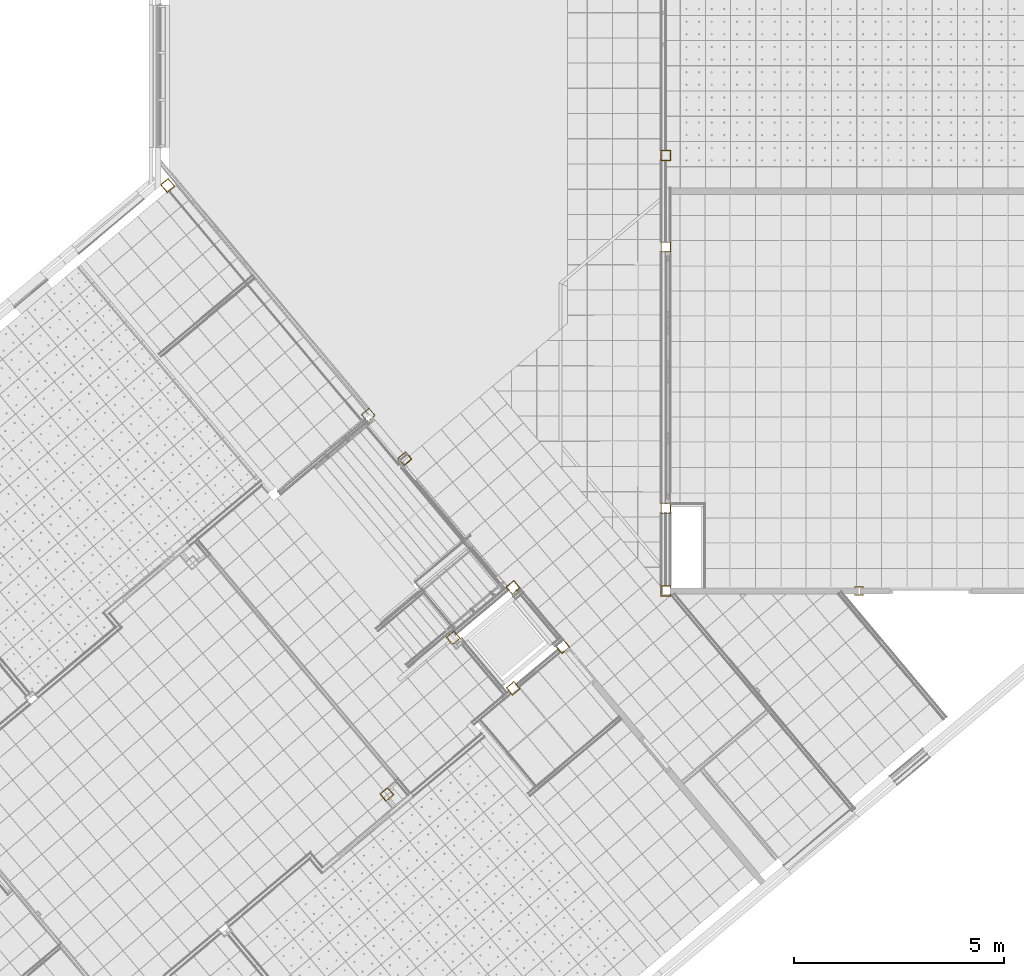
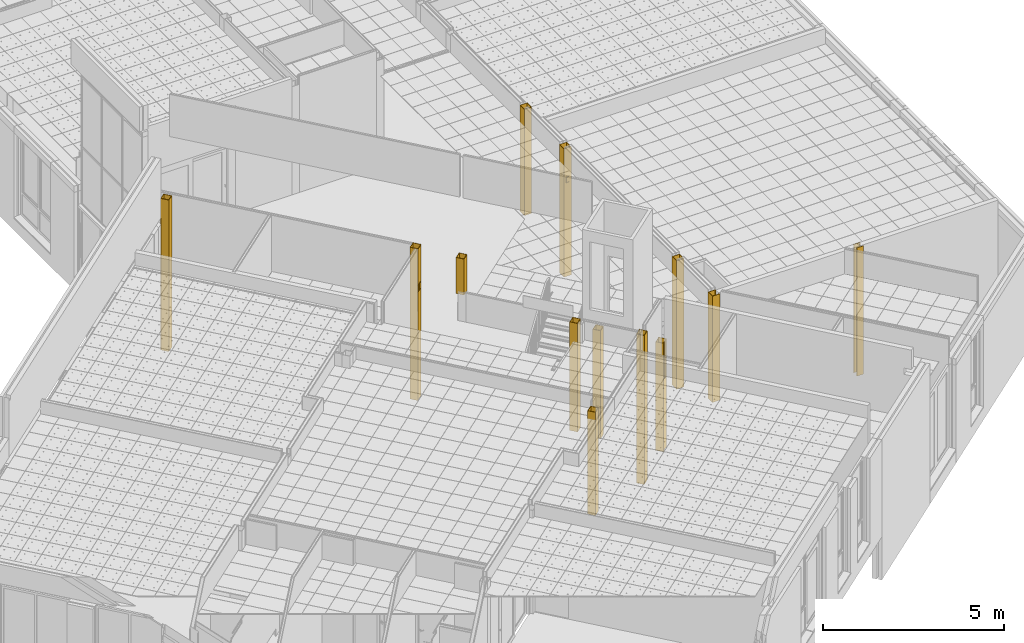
# One storey, part 117 of 338: 13 coverings.
"""IFC2X3 building model written with IfcOpenShell, lengths in millimetres."""

from ifc_helpers import new_model, entity, si_unit, converted_unit, derived_unit, money_unit, direction, frame, origin_with_axes, place, context, subcontext, project, spatial, faceted_brep, material, type_object, element, save


model = new_model("IFC2X3")

# Units and contexts
model_context = context("Model", 3, precision=0.01, world=origin_with_axes(), true_north=direction((0.0, 1.0)))
plan_context = context("Plan", 3, precision=0.01, world=origin_with_axes(), true_north=direction((0.0, 1.0)))
body_context = subcontext(model_context, "Body", "Model", "MODEL_VIEW")
ifc_project = project(units=[si_unit("LENGTHUNIT", "METRE", prefix="MILLI"), si_unit("AREAUNIT", "SQUARE_METRE"), si_unit("VOLUMEUNIT", "CUBIC_METRE"), converted_unit("PLANEANGLEUNIT", "DEGREE", entity("IfcPlaneAngleMeasure", 0.0174532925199), si_unit("PLANEANGLEUNIT", "RADIAN"), dimensions=[0, 0, 0, 0, 0, 0, 0]), money_unit("EUR"), converted_unit("TIMEUNIT", "Year", entity("IfcTimeMeasure", 31556926.0), si_unit("TIMEUNIT", "SECOND"), dimensions=[0, 0, 1, 0, 0, 0, 0]), si_unit("MASSUNIT", "GRAM", prefix="KILO"), si_unit("THERMODYNAMICTEMPERATUREUNIT", "DEGREE_CELSIUS"), si_unit("LUMINOUSINTENSITYUNIT", "LUMEN"), si_unit("ENERGYUNIT", "JOULE", prefix="MEGA"), derived_unit("THERMALCONDUCTANCEUNIT", [(si_unit("POWERUNIT", "WATT"), 1), (si_unit("LENGTHUNIT", "METRE"), -1), (si_unit("THERMODYNAMICTEMPERATUREUNIT", "KELVIN"), -1)]), derived_unit("SPECIFICHEATCAPACITYUNIT", [(si_unit("ENERGYUNIT", "JOULE"), 1), (si_unit("MASSUNIT", "GRAM", prefix="KILO"), -1), (si_unit("THERMODYNAMICTEMPERATUREUNIT", "KELVIN"), -1)]), derived_unit("MASSDENSITYUNIT", [(si_unit("MASSUNIT", "GRAM", prefix="KILO"), 1), (si_unit("VOLUMEUNIT", "CUBIC_METRE"), -1)])], contexts=[model_context, plan_context])

# Site, building, storey
site_placement = place(None, origin_with_axes())
site = spatial("IfcSite", under=ifc_project, at=site_placement, Name="Fortuinstraat Woensdrecht", CompositionType="ELEMENT")
building_placement = place(site_placement, origin_with_axes())
building = spatial("IfcBuilding", under=site, at=building_placement, Name="IKC Fortuna", CompositionType="ELEMENT")
storey_placement = place(building_placement, origin_with_axes())
storey = spatial("IfcBuildingStorey", under=building, at=storey_placement, Name="00 begane grond", CompositionType="ELEMENT", Elevation=0.0)

# Coverings
ifc_material = material(Name="Brandwering")
covering_type_1 = type_object("IfcCoveringType", Name="42 Omtimmering kolom 235 x 245", PredefinedType="CLADDING")
covering_1_placement = place(storey_placement, frame((25615.4349765, 12117.2966283, 0.0), z_axis=(0.0, 0.0, 1.0), x_axis=(1.0, 0.0, 0.0)))
element("IfcCovering", 1, at=covering_1_placement, inside=storey, type_object=covering_type_1, material=ifc_material, Name="42_Wandafwerking_omtimmering kolom", PredefinedType="CLADDING", context=body_context, shape_type="Brep", body=[
    faceted_brep([(-117.5, 122.5, 3575.0), (-117.5, 122.5, 0.0), (-117.5, -122.5, 0.0), (-117.5, -122.5, 3575.0), (117.5, 122.5, 3575.0), (117.5, 122.5, 0.0), (117.5, -122.5, 0.0), (105.0, -110.0, 0.0), (105.0, 110.0, 0.0), (-105.0, 110.0, 0.0), (-105.0, -110.0, 0.0), (117.5, -122.5, 3575.0), (-105.0, 110.0, 3575.0), (105.0, 110.0, 3575.0), (105.0, -110.0, 3575.0), (-105.0, -110.0, 3575.0)], [[[0, 1, 2, 3]], [[4, 5, 1, 0]], [[2, 1, 5, 6], [7, 8, 9, 10]], [[3, 2, 6, 11]], [[4, 0, 3, 11], [12, 13, 14, 15]], [[11, 6, 5, 4]], [[13, 8, 7, 14]], [[12, 9, 8, 13]], [[15, 10, 9, 12]], [[14, 7, 10, 15]]]),
])
covering_2_placement = place(storey_placement, frame((25615.4349765, 9937.29662827, -750.518223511), z_axis=(0.0, 0.0, 1.0), x_axis=(1.0, 0.0, 0.0)))
element("IfcCovering", 2, at=covering_2_placement, inside=storey, type_object=covering_type_1, material=ifc_material, Name="42_Wandafwerking_omtimmering kolom", PredefinedType="CLADDING", context=body_context, shape_type="Brep", body=[
    faceted_brep([(29.999999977, -122.5, 3160.51822351), (37.0710677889, -122.5, 3163.4471557), (39.999999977, -122.5, 3170.51822351), (39.999999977, -122.5, 3330.51822351), (37.0710677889, -122.5, 3337.58929132), (29.999999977, -122.5, 3340.51822351), (-30.000000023, -122.5, 3340.51822351), (-37.0710678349, -122.5, 3337.58929132), (-40.000000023, -122.5, 3330.51822351), (-40.000000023, -122.5, 3170.51822351), (-37.0710678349, -122.5, 3163.4471557), (-30.000000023, -122.5, 3160.51822351), (29.999999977, -109.999999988, 3160.51822351), (37.0710677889, -109.999999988, 3163.4471557), (39.999999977, -109.999999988, 3170.51822351), (39.999999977, -109.999999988, 3330.51822351), (37.0710677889, -109.999999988, 3337.58929132), (29.999999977, -109.999999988, 3340.51822351), (-30.000000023, -109.999999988, 3340.51822351), (-37.0710678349, -109.999999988, 3337.58929132), (-40.000000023, -109.999999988, 3330.51822351), (-40.000000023, -109.999999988, 3170.51822351), (-37.0710678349, -109.999999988, 3163.4471557), (-30.000000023, -109.999999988, 3160.51822351)], [[[0, 1, 2, 3, 4, 5, 6, 7, 8, 9, 10, 11]], [[0, 12, 13, 1]], [[1, 13, 14, 2]], [[2, 14, 15, 3]], [[3, 15, 16, 4]], [[4, 16, 17, 5]], [[5, 17, 18, 6]], [[6, 18, 19, 7]], [[7, 19, 20, 8]], [[8, 20, 21, 9]], [[9, 21, 22, 10]], [[10, 22, 23, 11]], [[11, 23, 12, 0]], [[18, 17, 16, 15, 14, 13, 12, 23, 22, 21, 20, 19]]]),
    faceted_brep([(-109.232641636, 122.5, 0.0), (-109.232639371, 122.5, 191.768223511), (-117.5, 122.5, 191.768223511), (-117.5, 122.5, 4320.51822351), (-112.177133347, 122.5, 4320.51822351), (-112.177133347, 122.5, 4325.51822351), (117.5, 122.5, 4325.51822351), (117.5, 122.5, 0.0), (-117.5, 115.562860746, 191.768223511), (-117.5, 115.562862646, 0.0), (-117.5, -122.5, 0.0), (-117.5, -122.5, 4320.51822351), (-31.2555711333, -122.5, 4320.51822351), (-16.3586512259, -110.0, 4320.51822351), (-105.0, -110.0, 4320.51822351), (-105.0, 110.0, 4320.51822351), (-101.688387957, 110.0, 4320.51822351), (-101.688387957, 110.0, 4325.51822351), (105.0, 110.0, 4325.51822351), (105.0, -110.0, 4325.51822351), (-16.3586512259, -110.0, 4325.51822351), (-31.2555711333, -122.5, 4325.51822351), (117.5, -122.5, 4325.51822351), (117.5, -122.5, 0.0), (-105.0, -110.0, 0.0), (105.0, -110.0, 0.0), (105.0, 110.0, 0.0), (-105.0, 110.0, 0.0), (29.999999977, -122.5, 3350.51822351), (39.999999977, -122.5, 3347.83873159), (47.3205080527, -122.5, 3340.51822351), (49.999999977, -122.5, 3330.51822351), (49.999999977, -122.5, 3170.51822351), (47.3205080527, -122.5, 3160.51822351), (39.999999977, -122.5, 3153.19771544), (29.999999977, -122.5, 3150.51822351), (-30.000000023, -122.5, 3150.51822351), (-40.000000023, -122.5, 3153.19771544), (-47.3205080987, -122.5, 3160.51822351), (-50.000000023, -122.5, 3170.51822351), (-50.000000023, -122.5, 3330.51822351), (-47.3205080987, -122.5, 3340.51822351), (-40.000000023, -122.5, 3347.83873159), (-30.000000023, -122.5, 3350.51822351), (39.999999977, -109.999999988, 3153.19771544), (47.3205080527, -109.999999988, 3160.51822351), (49.999999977, -109.999999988, 3170.51822351), (49.999999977, -109.999999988, 3330.51822351), (47.3205080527, -109.999999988, 3340.51822351), (39.999999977, -109.999999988, 3347.83873159), (29.999999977, -109.999999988, 3350.51822351), (-30.000000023, -109.999999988, 3350.51822351), (-40.000000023, -109.999999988, 3347.83873159), (-47.3205080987, -109.999999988, 3340.51822351), (-50.000000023, -109.999999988, 3330.51822351), (-50.000000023, -109.999999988, 3170.51822351), (-47.3205080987, -109.999999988, 3160.51822351), (-40.000000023, -109.999999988, 3153.19771544), (-30.000000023, -109.999999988, 3150.51822351), (29.999999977, -109.999999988, 3150.51822351)], [[[0, 1, 2, 3, 4, 5, 6, 7]], [[8, 1, 0, 9]], [[8, 2, 1]], [[2, 8, 9, 10, 11, 3]], [[12, 13, 14, 15, 16, 4, 3, 11]], [[4, 16, 17, 5]], [[6, 5, 17, 18, 19, 20, 21, 22]], [[6, 22, 23, 7]], [[10, 9, 0, 7, 23], [24, 25, 26, 27]], [[21, 12, 11, 10, 23, 22], [28, 29, 30, 31, 32, 33, 34, 35, 36, 37, 38, 39, 40, 41, 42, 43]], [[12, 21, 20, 13]], [[24, 14, 13, 20, 19, 25], [44, 45, 46, 47, 48, 49, 50, 51, 52, 53, 54, 55, 56, 57, 58, 59]], [[27, 15, 14, 24]], [[17, 16, 15, 27, 26, 18]], [[19, 18, 26, 25]], [[28, 50, 49, 29]], [[29, 49, 48, 30]], [[30, 48, 47, 31]], [[31, 47, 46, 32]], [[32, 46, 45, 33]], [[33, 45, 44, 34]], [[34, 44, 59, 35]], [[35, 59, 58, 36]], [[36, 58, 57, 37]], [[37, 57, 56, 38]], [[38, 56, 55, 39]], [[39, 55, 54, 40]], [[40, 54, 53, 41]], [[41, 53, 52, 42]], [[42, 52, 51, 43]], [[43, 51, 50, 28]]]),
])
covering_3_placement = place(storey_placement, frame((25615.4349765, 3722.29662827, -750.518223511), z_axis=(0.0, 0.0, 1.0), x_axis=(1.0, 0.0, 0.0)))
element("IfcCovering", 3, at=covering_3_placement, inside=storey, type_object=covering_type_1, material=ifc_material, Name="42_Wandafwerking_omtimmering kolom", PredefinedType="CLADDING", context=body_context, shape_type="Brep", body=[
    faceted_brep([(29.999999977, 110.000000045, 3160.51822351), (37.0710677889, 110.000000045, 3163.4471557), (39.999999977, 110.000000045, 3170.51822351), (39.999999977, 110.000000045, 3330.51822351), (37.0710677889, 110.000000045, 3337.58929132), (29.999999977, 110.000000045, 3340.51822351), (-30.000000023, 110.000000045, 3340.51822351), (-37.0710678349, 110.000000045, 3337.58929132), (-40.000000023, 110.000000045, 3330.51822351), (-40.000000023, 110.000000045, 3170.51822351), (-37.0710678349, 110.000000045, 3163.4471557), (-30.000000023, 110.000000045, 3160.51822351), (29.999999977, 122.5, 3160.51822351), (37.0710677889, 122.5, 3163.4471557), (39.999999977, 122.5, 3170.51822351), (39.999999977, 122.5, 3330.51822351), (37.0710677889, 122.5, 3337.58929132), (29.999999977, 122.5, 3340.51822351), (-30.000000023, 122.5, 3340.51822351), (-37.0710678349, 122.5, 3337.58929132), (-40.000000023, 122.5, 3330.51822351), (-40.000000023, 122.5, 3170.51822351), (-37.0710678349, 122.5, 3163.4471557), (-30.000000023, 122.5, 3160.51822351)], [[[0, 1, 2, 3, 4, 5, 6, 7, 8, 9, 10, 11]], [[0, 12, 13, 1]], [[1, 13, 14, 2]], [[2, 14, 15, 3]], [[3, 15, 16, 4]], [[4, 16, 17, 5]], [[5, 17, 18, 6]], [[6, 18, 19, 7]], [[7, 19, 20, 8]], [[8, 20, 21, 9]], [[9, 21, 22, 10]], [[10, 22, 23, 11]], [[11, 23, 12, 0]], [[18, 17, 16, 15, 14, 13, 12, 23, 22, 21, 20, 19]]]),
    faceted_brep([(105.0, 110.0, 4325.51822351), (-105.0, 110.0, 4325.51822351), (-105.0, 110.0, 0.0), (105.0, 110.0, 0.0), (29.999999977, 110.000000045, 3350.51822351), (39.999999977, 110.000000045, 3347.83873159), (47.3205080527, 110.000000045, 3340.51822351), (49.999999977, 110.000000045, 3330.51822351), (49.999999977, 110.000000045, 3170.51822351), (47.3205080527, 110.000000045, 3160.51822351), (39.999999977, 110.000000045, 3153.19771544), (29.999999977, 110.000000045, 3150.51822351), (-30.000000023, 110.000000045, 3150.51822351), (-40.000000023, 110.000000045, 3153.19771544), (-47.3205080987, 110.000000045, 3160.51822351), (-50.000000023, 110.000000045, 3170.51822351), (-50.000000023, 110.000000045, 3330.51822351), (-47.3205080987, 110.000000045, 3340.51822351), (-40.000000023, 110.000000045, 3347.83873159), (-30.000000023, 110.000000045, 3350.51822351), (117.5, -122.5, 4325.51822351), (117.5, 122.5, 4325.51822351), (-117.5, 122.5, 4325.51822351), (-117.5, -122.5, 4325.51822351), (-105.0, -110.0, 4325.51822351), (105.0, -110.0, 4325.51822351), (-105.0, -110.0, 0.0), (117.5, -122.5, 0.0), (-117.5, -122.5, 0.0), (-117.5, 122.5, 0.0), (117.5, 122.5, 0.0), (105.0, -110.0, 0.0), (29.999999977, 122.5, 3350.51822351), (39.999999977, 122.5, 3347.83873159), (47.3205080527, 122.5, 3340.51822351), (49.999999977, 122.5, 3330.51822351), (49.999999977, 122.5, 3170.51822351), (47.3205080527, 122.5, 3160.51822351), (39.999999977, 122.5, 3153.19771544), (29.999999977, 122.5, 3150.51822351), (-30.000000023, 122.5, 3150.51822351), (-40.000000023, 122.5, 3153.19771544), (-47.3205080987, 122.5, 3160.51822351), (-50.000000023, 122.5, 3170.51822351), (-50.000000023, 122.5, 3330.51822351), (-47.3205080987, 122.5, 3340.51822351), (-40.000000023, 122.5, 3347.83873159), (-30.000000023, 122.5, 3350.51822351)], [[[0, 1, 2, 3], [4, 5, 6, 7, 8, 9, 10, 11, 12, 13, 14, 15, 16, 17, 18, 19]], [[20, 21, 22, 23], [24, 1, 0, 25]], [[1, 24, 26, 2]], [[27, 28, 29, 30], [26, 31, 3, 2]], [[25, 0, 3, 31]], [[4, 32, 33, 5]], [[5, 33, 34, 6]], [[6, 34, 35, 7]], [[7, 35, 36, 8]], [[8, 36, 37, 9]], [[9, 37, 38, 10]], [[10, 38, 39, 11]], [[11, 39, 40, 12]], [[12, 40, 41, 13]], [[13, 41, 42, 14]], [[14, 42, 43, 15]], [[15, 43, 44, 16]], [[16, 44, 45, 17]], [[17, 45, 46, 18]], [[18, 46, 47, 19]], [[19, 47, 32, 4]], [[21, 20, 27, 30]], [[22, 21, 30, 29], [38, 37, 36, 35, 34, 33, 32, 47, 46, 45, 44, 43, 42, 41, 40, 39]], [[23, 22, 29, 28]], [[20, 23, 28, 27]], [[24, 25, 31, 26]]]),
])
covering_4_placement = place(storey_placement, frame((25615.4349765, 1752.29662827, 0.0), z_axis=(0.0, 0.0, 1.0), x_axis=(1.0, 0.0, 0.0)))
element("IfcCovering", 4, at=covering_4_placement, inside=storey, type_object=covering_type_1, material=ifc_material, Name="42_Wandafwerking_omtimmering kolom", PredefinedType="CLADDING", context=body_context, shape_type="Brep", body=[
    faceted_brep([(117.5, -122.5, 0.0), (117.5, -75.0, 0.0), (117.5, -75.0, 3575.0), (117.5, -122.5, 3575.0), (117.5, 122.5, 0.0), (117.5, 75.0, 0.0), (105.0, 75.0, 0.0), (105.0, 110.0, 0.0), (-105.0, 110.0, 0.0), (-105.0, -110.0, 0.0), (105.0, -110.0, 0.0), (105.0, -75.0, 0.0), (-117.5, -122.5, 0.0), (-117.5, 122.5, 0.0), (105.0, -75.0, 3575.0), (105.0, 110.0, 3575.0), (105.0, 75.0, 3575.0), (117.5, 75.0, 3575.0), (117.5, 122.5, 3575.0), (-117.5, 122.5, 3575.0), (-117.5, -122.5, 3575.0), (105.0, -110.0, 3575.0), (-105.0, -110.0, 3575.0), (-105.0, 110.0, 3575.0)], [[[0, 1, 2, 3]], [[4, 5, 6, 7, 8, 9, 10, 11, 1, 0, 12, 13]], [[11, 14, 2, 1]], [[15, 16, 17, 18, 19, 20, 3, 2, 14, 21, 22, 23]], [[3, 20, 12, 0]], [[18, 17, 5, 4]], [[6, 5, 17, 16]], [[7, 6, 16, 15]], [[15, 23, 8, 7]], [[23, 22, 9, 8]], [[22, 21, 10, 9]], [[21, 14, 11, 10]], [[20, 19, 13, 12]], [[19, 18, 4, 13]]]),
])
covering_5_placement = place(storey_placement, frame((18975.70484, -3089.83761212, 1450.0), z_axis=(0.0, 0.0, 1.0), x_axis=(0.642787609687, -0.766044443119, 0.0)))
element("IfcCovering", 5, at=covering_5_placement, inside=storey, type_object=covering_type_1, material=ifc_material, Name="42_Wandafwerking_omtimmering kolom", PredefinedType="CLADDING", context=body_context, shape_type="Brep", body=[
    faceted_brep([(-117.5, 122.5, 3474.0), (-117.5, 122.5, 0.0), (-117.5, -122.5, 0.0), (-117.5, -122.5, 3474.0), (117.5, 122.5, 3474.0), (117.5, 122.5, 0.0), (117.5, -122.5, 0.0), (105.0, -110.0, 0.0), (105.0, 110.0, 0.0), (-105.0, 110.0, 0.0), (-105.0, -110.0, 0.0), (117.5, -122.5, 3474.0), (-105.0, 110.0, 3474.0), (105.0, 110.0, 3474.0), (105.0, -110.0, 3474.0), (-105.0, -110.0, 3474.0)], [[[0, 1, 2, 3]], [[4, 5, 1, 0]], [[2, 1, 5, 6], [7, 8, 9, 10]], [[3, 2, 6, 11]], [[4, 0, 3, 11], [12, 13, 14, 15]], [[11, 6, 5, 4]], [[13, 8, 7, 14]], [[12, 9, 8, 13]], [[15, 10, 9, 12]], [[14, 7, 10, 15]]]),
])
covering_6_placement = place(storey_placement, frame((20556.0069757, 635.489961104, 1450.0), z_axis=(0.0, 0.0, 1.0), x_axis=(0.642787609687, -0.766044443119, 0.0)))
element("IfcCovering", 6, at=covering_6_placement, inside=storey, type_object=covering_type_1, material=ifc_material, Name="42_Wandafwerking_omtimmering kolom", PredefinedType="CLADDING", context=body_context, shape_type="Brep", body=[
    faceted_brep([(-117.5, -122.5, 3650.0), (-117.5, 122.5, 3650.0), (-117.5, 122.5, 0.0), (-117.5, -122.5, 0.0), (117.5, -122.5, 3650.0), (117.5, 122.5, 3650.0), (-105.0, -110.0, 3650.0), (-105.0, 110.0, 3650.0), (105.0, 110.0, 3650.0), (105.0, -110.0, 3650.0), (117.5, 122.5, 0.0), (117.5, -122.5, 0.0), (-105.0, -110.0, 0.0), (105.0, -110.0, 0.0), (105.0, 110.0, 0.0), (-105.0, 110.0, 0.0)], [[[0, 1, 2, 3]], [[4, 5, 1, 0], [6, 7, 8, 9]], [[1, 5, 10, 2]], [[11, 3, 2, 10], [12, 13, 14, 15]], [[4, 0, 3, 11]], [[5, 4, 11, 10]], [[7, 6, 12, 15]], [[8, 7, 15, 14]], [[9, 8, 14, 13]], [[6, 9, 13, 12]]]),
])
covering_7_placement = place(storey_placement, frame((23161.8384998, 423.160633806, 0.0), z_axis=(0.0, 0.0, 1.0), x_axis=(0.642787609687, -0.766044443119, 0.0)))
element("IfcCovering", 7, at=covering_7_placement, inside=storey, type_object=covering_type_1, material=ifc_material, Name="42_Wandafwerking_omtimmering kolom", PredefinedType="CLADDING", context=body_context, shape_type="Brep", body=[
    faceted_brep([(104.999982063, 109.999978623, 3650.0), (104.999982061, 109.999978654, 2577.0), (105.017046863, 110.007389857, 2577.0), (105.0, 110.0, 0.0), (104.999982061, 109.999978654, 2367.0), (-105.0, 109.999978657, 3650.0), (-105.0, 109.999978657, 3633.0), (-105.0, 110.0, 0.0), (105.017046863, 110.003870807, 2367.0), (117.5, 109.999978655, 0.0), (104.999982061, -40.0000213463, 2367.0), (105.0, -110.0, 0.0), (105.0, -110.0, 3650.0), (104.999982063, -40.000021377, 3650.0), (117.5, 122.5, 3650.0), (-117.5, 122.5, 3650.0), (-117.5, 109.999978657, 3650.0), (117.5, 109.999978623, 3650.0), (-117.5, 109.999978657, 3633.0), (-105.0, -110.0, 0.0), (-105.0, -110.0, 3633.0), (117.5, -122.5, 0.0), (-117.5, -122.5, 0.0), (-117.5, 122.5, 0.0), (117.5, 122.5, 0.0), (105.017046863, 110.007260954, 0.0), (105.017046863, -39.9926101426, 0.0), (117.5, -39.9926101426, 0.0), (105.017046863, -39.9926101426, 2367.0), (-100.000017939, -110.0, 3633.0), (-100.000017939, -110.0, 3650.0), (-100.000017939, -122.5, 3650.0), (117.5, -122.5, 3650.0), (117.5, -40.000021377, 3650.0), (105.017046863, -39.9926101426, 2577.0), (-117.5, -122.5, 3633.0), (-100.000017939, -122.5, 3633.0)], [[[0, 1, 2]], [[3, 4, 1, 0, 5, 6, 7]], [[2, 1, 4, 8]], [[2, 9, 0]], [[10, 4, 3, 11, 12, 13]], [[14, 15, 16, 5, 0, 17]], [[16, 18, 6, 5]], [[19, 7, 6, 20]], [[21, 22, 23, 24, 9, 25, 26, 27], [7, 19, 11, 3]], [[10, 28, 8, 4]], [[9, 2, 8, 25]], [[17, 0, 9]], [[19, 20, 29, 30, 12, 11]], [[13, 12, 30, 31, 32, 33]], [[13, 34, 28, 10]], [[23, 15, 14, 24]], [[22, 35, 18, 16, 15, 23]], [[14, 17, 9, 24]], [[36, 29, 20, 6, 18, 35]], [[32, 31, 36, 35, 22, 21]], [[25, 8, 28, 26]], [[26, 28, 34, 27]], [[32, 21, 27, 33]], [[29, 36, 31, 30]], [[33, 27, 13]], [[13, 27, 34]]]),
])
covering_8_placement = place(storey_placement, frame((21983.3329387, -566.137983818, -90.0), z_axis=(0.0, 0.0, 1.0), x_axis=(0.642787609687, -0.766044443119, 0.0)))
element("IfcCovering", 8, at=covering_8_placement, inside=storey, type_object=covering_type_1, material=ifc_material, Name="42_Wandafwerking_omtimmering kolom", PredefinedType="CLADDING", context=body_context, shape_type="Brep", body=[
    faceted_brep([(-117.5, -122.5, 5014.0), (-117.5, 122.5, 5014.0), (-117.5, 122.5, 0.0), (-117.5, -122.5, 0.0), (117.5, -122.5, 5014.0), (117.5, 122.5, 5014.0), (-105.0, -110.0, 5014.0), (-105.0, 110.0, 5014.0), (105.0, 110.0, 5014.0), (105.0, -110.0, 5014.0), (117.5, 122.5, 0.0), (117.5, -122.5, 0.0), (-105.0, -110.0, 0.0), (105.0, -110.0, 0.0), (105.0, 110.0, 0.0), (-105.0, 110.0, 0.0)], [[[0, 1, 2, 3]], [[4, 5, 1, 0], [6, 7, 8, 9]], [[1, 5, 10, 2]], [[11, 3, 2, 10], [12, 13, 14, 15]], [[4, 0, 3, 11]], [[5, 4, 11, 10]], [[7, 6, 12, 15]], [[8, 7, 15, 14]], [[9, 8, 14, 13]], [[6, 9, 13, 12]]]),
])
covering_9_placement = place(storey_placement, frame((21980.4058143, 1831.13724789, 0.0), z_axis=(0.0, 0.0, 1.0), x_axis=(0.642787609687, -0.766044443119, 0.0)))
element("IfcCovering", 9, at=covering_9_placement, inside=storey, type_object=covering_type_1, material=ifc_material, Name="42_Wandafwerking_omtimmering kolom", PredefinedType="CLADDING", context=body_context, shape_type="Brep", body=[
    faceted_brep([(-117.5, 122.5, 3633.0), (-117.5, 122.5, 0.0), (-117.5, -122.5, 0.0), (-117.5, -122.5, 3633.0), (117.5, 122.5, 3633.0), (117.5, 122.5, 0.0), (117.5, -122.5, 0.0), (105.0, -110.0, 0.0), (105.0, 110.0, 0.0), (-105.0, 110.0, 0.0), (-105.0, -110.0, 0.0), (117.5, -122.5, 3633.0), (-105.0, 110.0, 3633.0), (105.0, 110.0, 3633.0), (105.0, -110.0, 3633.0), (-105.0, -110.0, 3633.0)], [[[0, 1, 2, 3]], [[4, 5, 1, 0]], [[2, 1, 5, 6], [7, 8, 9, 10]], [[3, 2, 6, 11]], [[4, 0, 3, 11], [12, 13, 14, 15]], [[11, 6, 5, 4]], [[13, 8, 7, 14]], [[12, 9, 8, 13]], [[15, 10, 9, 12]], [[14, 7, 10, 15]]]),
])
covering_10_placement = place(storey_placement, frame((18533.7786511, 5938.6675519, 0.100000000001), z_axis=(0.0, 0.0, 1.0), x_axis=(0.642787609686, -0.766044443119, 0.0)))
element("IfcCovering", 10, at=covering_10_placement, inside=storey, type_object=covering_type_1, material=ifc_material, Name="42_Wandafwerking_omtimmering kolom", PredefinedType="CLADDING", context=body_context, shape_type="Brep", body=[
    faceted_brep([(105.0, 110.0, 0.0), (104.999999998, 110.000000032, 3632.9), (104.999999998, 110.000000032, 3649.9), (104.999999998, 110.000000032, 3855.9), (104.999999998, 110.000000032, 3872.9), (104.999999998, 110.000000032, 5082.9), (104.999999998, 110.000000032, 5099.9), (-105.0, 110.0, 5099.9), (-105.0, 110.0, 0.0), (105.0, -110.0, 0.0), (104.999999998, -110.0, 3632.9), (117.5, 110.000000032, 3632.9), (117.5, 110.000000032, 3649.9), (104.999999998, 5.50000003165, 3853.08653348), (104.999999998, 16.0000000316, 3855.9), (104.999999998, 16.0000000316, 3649.9), (104.999999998, 5.50000003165, 3652.71346652), (104.999999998, -2.18653344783, 3660.4), (104.999999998, -4.99999996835, 3670.9), (104.999999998, -4.99999996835, 3834.9), (104.999999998, -2.18653344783, 3845.4), (117.5, 110.000000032, 3855.9), (117.5, 110.000000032, 3872.9), (104.999999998, -110.0, 3872.9), (104.999999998, -110.0, 5082.9), (117.5, 110.000000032, 5082.9), (117.5, 110.000000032, 5099.9), (-117.5, -122.5, 5099.9), (104.999999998, -122.5, 5099.9), (104.999999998, -110.0, 5099.9), (-105.0, -110.0, 5099.9), (117.5, 122.5, 5099.9), (-117.5, 122.5, 5099.9), (-105.0, -110.0, 0.0), (117.5, 122.5, 0.0), (117.5, -122.5, 0.0), (-117.5, -122.5, 0.0), (-117.5, 122.5, 0.0), (104.999999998, -110.0, 3855.9), (104.999999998, -110.0, 3649.9), (104.999999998, -122.5, 3632.9), (117.5, -122.5, 3632.9), (117.5, -122.5, 5082.9), (117.5, -122.5, 3872.9), (117.5, 16.0000000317, 3855.9), (117.5, 5.50000003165, 3853.08653348), (117.5, -2.18653344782, 3845.4), (117.5, -4.99999996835, 3834.9), (117.5, -4.99999996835, 3670.9), (117.5, -2.18653344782, 3660.4), (117.5, 5.50000003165, 3652.71346652), (117.5, 16.0000000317, 3649.9), (104.999999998, -122.5, 3872.9), (104.999999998, -122.5, 5082.9), (104.999999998, -122.5, 3855.9), (104.999999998, -122.5, 3649.9), (117.5, -122.5, 3649.9), (117.5, -122.5, 3855.9), (104.999999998, -25.4999999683, 3652.71346652), (104.999999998, -35.9999999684, 3649.9), (104.999999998, -35.9999999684, 3855.9), (104.999999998, -25.4999999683, 3853.08653348), (104.999999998, -17.8134664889, 3845.4), (104.999999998, -14.9999999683, 3834.9), (104.999999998, -14.9999999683, 3670.9), (104.999999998, -17.8134664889, 3660.4), (117.5, -35.9999999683, 3649.9), (117.5, -25.4999999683, 3853.08653348), (117.5, -35.9999999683, 3855.9), (117.5, -25.4999999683, 3652.71346652), (117.5, -17.8134664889, 3660.4), (117.5, -14.9999999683, 3670.9), (117.5, -14.9999999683, 3834.9), (117.5, -17.8134664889, 3845.4)], [[[0, 1, 2, 3, 4, 5, 6, 7, 8]], [[9, 10, 1, 0]], [[1, 11, 12, 2]], [[13, 14, 3, 2, 15, 16, 17, 18, 19, 20]], [[3, 21, 22, 4]], [[5, 4, 23, 24]], [[5, 25, 26, 6]], [[27, 28, 29, 30, 7, 6, 26, 31, 32]], [[8, 7, 30, 33]], [[34, 35, 36, 37], [8, 33, 9, 0]], [[38, 39, 10, 9, 33, 30, 29, 24, 23]], [[40, 41, 11, 1, 10]], [[12, 11, 41, 35, 34, 31, 26, 25, 42, 43, 22, 21, 44, 45, 46, 47, 48, 49, 50, 51]], [[2, 12, 51, 15]], [[13, 45, 44, 14]], [[14, 44, 21, 3]], [[15, 51, 50, 16]], [[16, 50, 49, 17]], [[17, 49, 48, 18]], [[18, 48, 47, 19]], [[19, 47, 46, 20]], [[20, 46, 45, 13]], [[4, 22, 43, 52, 23]], [[53, 42, 25, 5, 24]], [[54, 52, 43, 42, 53, 28, 27, 36, 35, 41, 40, 55, 56, 57]], [[53, 24, 29, 28]], [[37, 32, 31, 34]], [[36, 27, 32, 37]], [[58, 59, 39, 38, 60, 61, 62, 63, 64, 65]], [[40, 10, 39, 55]], [[54, 38, 23, 52]], [[59, 66, 56, 55, 39]], [[67, 68, 57, 56, 66, 69, 70, 71, 72, 73]], [[54, 57, 68, 60, 38]], [[58, 69, 66, 59]], [[60, 68, 67, 61]], [[61, 67, 73, 62]], [[62, 73, 72, 63]], [[63, 72, 71, 64]], [[64, 71, 70, 65]], [[65, 70, 69, 58]]]),
])
covering_11_placement = place(storey_placement, frame((19404.8959604, 4900.51036907, 3873.0), z_axis=(0.0, 0.0, 1.0), x_axis=(0.642787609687, -0.766044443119, 0.0)))
element("IfcCovering", 11, at=covering_11_placement, inside=storey, type_object=covering_type_1, material=ifc_material, Name="42_Wandafwerking_omtimmering kolom", PredefinedType="CLADDING", context=body_context, shape_type="Brep", body=[
    faceted_brep([(117.5, -122.5, 0.0), (117.5, 109.999999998, 0.0), (117.5, 109.999999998, 37.0), (117.5, 122.5, 37.0), (117.5, 122.5, 1210.0), (117.5, -122.5, 1210.0), (105.0, -110.0, 0.0), (105.0, 109.999999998, 0.0), (-117.5, -122.5, 0.0), (-117.5, 122.5, 0.0), (-92.5948455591, 122.5, 0.0), (-92.5948455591, 109.999999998, 0.0), (-105.0, 110.0, 0.0), (-105.0, -110.0, 0.0), (105.0, 109.999999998, 37.0), (-92.5948455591, 109.999999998, 37.0), (-92.5948455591, 122.5, 37.0), (-117.5, 122.5, 1210.0), (-117.5, -122.5, 1210.0), (-105.0, -110.0, 1210.0), (-105.0, 110.0, 1210.0), (105.0, 110.0, 1210.0), (105.0, -110.0, 1210.0)], [[[0, 1, 2, 3, 4, 5]], [[6, 7, 1, 0, 8, 9, 10, 11, 12, 13]], [[14, 2, 1, 7]], [[15, 16, 3, 2, 14]], [[3, 16, 10, 9, 17, 4]], [[5, 4, 17, 18], [19, 20, 21, 22]], [[5, 18, 8, 0]], [[21, 14, 7, 6, 22]], [[18, 17, 9, 8]], [[11, 10, 16, 15]], [[11, 15, 14, 21, 20, 12]], [[20, 19, 13, 12]], [[19, 22, 6, 13]]]),
])
covering_12_placement = place(storey_placement, frame((13759.7667264, 11402.0724998, 0.100000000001), z_axis=(0.0, 0.0, 1.0), x_axis=(0.642787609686, -0.766044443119, 0.0)))
element("IfcCovering", 12, at=covering_12_placement, inside=storey, type_object=covering_type_1, material=ifc_material, Name="42_Wandafwerking_omtimmering kolom", PredefinedType="CLADDING", context=body_context, shape_type="Brep", body=[
    faceted_brep([(-122.5, 117.5, 0.0), (-122.5, -111.730159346, 0.0), (-122.5, -111.730159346, 4447.4), (-122.5, -117.5, 4447.4), (-122.5, -117.5, 5099.9), (-122.5, 117.5, 5099.9), (122.5, 117.5, 0.0), (122.5, -117.5, 0.0), (-115.623771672, -117.5, 0.0), (110.0, -105.0, 0.0), (110.0, 105.0, 0.0), (-110.0, 105.0, 0.0), (-110.0, -105.0, 0.0), (-115.623771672, -117.5, 4447.4), (122.5, -117.5, 5099.9), (122.5, 117.5, 5099.9), (110.0, -105.0, 5099.9), (-110.0, -105.0, 5099.9), (-110.0, 105.0, 5099.9), (110.0, 105.0, 5099.9)], [[[0, 1, 2, 3, 4, 5]], [[0, 6, 7, 8, 1], [9, 10, 11, 12]], [[1, 8, 13, 2]], [[2, 13, 3]], [[4, 3, 13, 8, 7, 14]], [[15, 5, 4, 14], [16, 17, 18, 19]], [[5, 15, 6, 0]], [[15, 14, 7, 6]], [[16, 19, 10, 9]], [[19, 18, 11, 10]], [[18, 17, 12, 11]], [[17, 16, 9, 12]]]),
])
covering_type_2 = type_object("IfcCoveringType", Name="42 Omtimmering kolom 205 x 196", PredefinedType="CLADDING")
covering_13_placement = place(storey_placement, frame((30215.4349765, 1752.29662827, -745.0), z_axis=(0.0, 0.0, 1.0), x_axis=(1.0, 0.0, 0.0)))
element("IfcCovering", 13, at=covering_13_placement, inside=storey, type_object=covering_type_2, material=ifc_material, Name="42_Wandafwerking_omtimmering kolom", PredefinedType="CLADDING", context=body_context, shape_type="Brep", body=[
    faceted_brep([(102.501722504, -98.0020532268, 0.0), (102.501722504, -75.0, 0.0), (102.501722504, -74.9999999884, 4320.0), (102.501722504, -98.0020532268, 4320.0), (90.001722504, -85.5020532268, 0.0), (90.001722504, -75.0, 0.0), (-102.501722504, -98.0020532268, 0.0), (-102.501722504, -75.0, 0.0), (-90.001722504, -75.0, 0.0), (-90.001722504, -85.5020532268, 0.0), (90.001722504, -74.9999999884, 4320.0), (90.001722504, -85.5020532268, 4320.0), (-90.001722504, -85.5020532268, 4320.0), (-90.001722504, -75.0, 4320.0), (-102.501722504, -75.0, 4320.0), (-102.501722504, -98.0020532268, 4320.0)], [[[0, 1, 2, 3]], [[4, 5, 1, 0, 6, 7, 8, 9]], [[10, 2, 1, 5]], [[3, 2, 10, 11, 12, 13, 14, 15]], [[3, 15, 6, 0]], [[10, 5, 4, 11]], [[15, 14, 7, 6]], [[7, 14, 13, 8]], [[9, 8, 13, 12]], [[12, 11, 4, 9]]]),
    faceted_brep([(90.001722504, 85.5020532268, 0.0), (90.001722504, 75.0, 0.0), (90.001722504, 75.0000000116, 4320.0), (90.001722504, 85.5020532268, 4320.0), (102.501722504, 98.0020532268, 0.0), (102.501722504, 75.0, 0.0), (-90.001722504, 85.5020532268, 0.0), (-90.001722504, 75.0, 0.0), (-102.501722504, 75.0, 0.0), (-102.501722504, 98.0020532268, 0.0), (102.501722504, 75.0000000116, 4320.0), (102.501722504, 98.0020532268, 4320.0), (-102.501722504, 98.0020532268, 4320.0), (-102.501722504, 75.0, 4320.0), (-90.001722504, 75.0, 4320.0), (-90.001722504, 85.5020532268, 4320.0)], [[[0, 1, 2, 3]], [[4, 5, 1, 0, 6, 7, 8, 9]], [[1, 5, 10, 2]], [[3, 2, 10, 11, 12, 13, 14, 15]], [[3, 15, 6, 0]], [[10, 5, 4, 11]], [[15, 14, 7, 6]], [[8, 7, 14, 13]], [[9, 8, 13, 12]], [[12, 11, 4, 9]]]),
])

save(model, "model.ifc")
